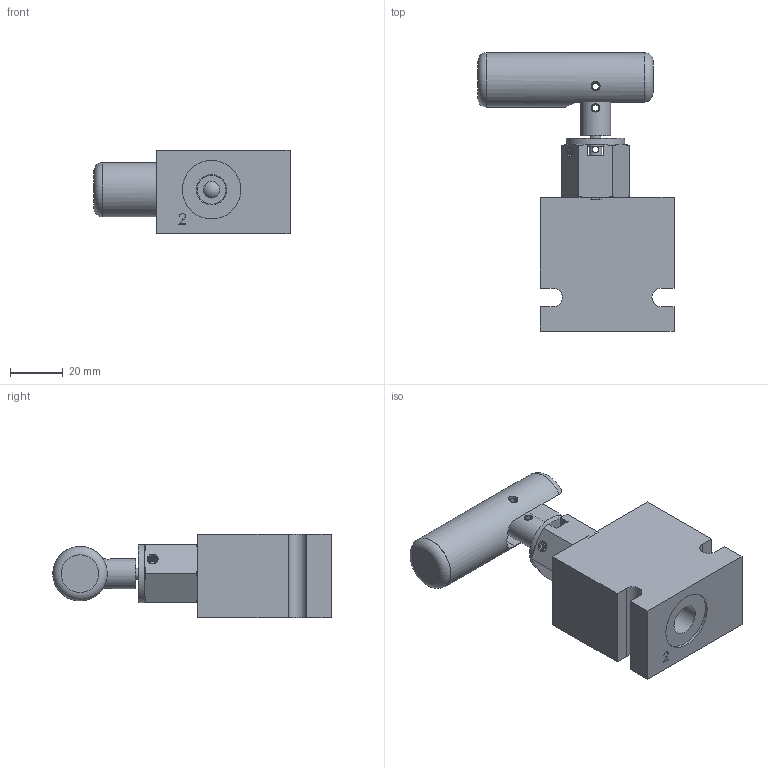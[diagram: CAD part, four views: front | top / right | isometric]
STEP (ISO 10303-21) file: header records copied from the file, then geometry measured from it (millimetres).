
FILE_DESCRIPTION( ( 'Unknown' ), '1' );
FILE_NAME( 'G:/Graphic Design/Graphic Design 2/Data Sheets/MANUAL_MECH OPERATED VALVES/4_STEP/2W2P Manual Valves/D-PBMCL00-A2.stp', 'Unknown', ( 'Unknown' ), ( 'Unknown' ), 'PSStep 16.0.42', 'Unknown', ' ' );
FILE_SCHEMA( ( 'AUTOMOTIVE_DESIGN { 1 0 10303 214 1 1 1 1 }' ) );
Length unit declared in the file: millimetre
Products named in the file (10): PBMCL00; PBMCL00-3D Full1; PBMCL00-3D Full2; PBMCL00-3D Full3; PBMCL00-3D Full4; PBMCL00-3D Full5; PBMCL00-3D Full6; PBMCL00-3D Full7; Assem1; B-DPBA2
Assembly tree (9 placements, depth 3):
  Assem1
    B-DPBA2
    PBMCL00
      PBMCL00-3D Full1
      PBMCL00-3D Full2
      PBMCL00-3D Full3
      PBMCL00-3D Full4
      PBMCL00-3D Full5
      PBMCL00-3D Full6
      PBMCL00-3D Full7
Bounding box: 74.45 x 105.73 x 31.75 mm (x, y, z)
Surface area: 28386.4 mm2 (no closed solid volume)
Topology: 0 solids, 215 shells, 215 faces, 933 edges, 851 vertices
Faces by surface type: plane 106, cylinder 52, cone 47, torus 7, sphere 2, bspline 1
Full cylindrical faces by diameter (mm): 0.2 x2, 2.426 x1, 3.175 x2, 3.454 x2, 4.064 x1, 4.775 x5, 6.248 x1, 6.35 x1, 6.731 x1, 9.258 x1, 9.373 x1, 9.528 x1, 9.842 x1, 9.928 x1, 10.16 x1, 10.5 x1, 11 x1, 11.43 x1, 11.5 x4, 12.62 x1, 12.624 x2, 12.7 x1, 15.824 x1, 16.751 x1, 17.33 x2, 20.65 x1, 22.098 x1, 22.22 x2, 22.225 x1
Entity records: 12515 total; most frequent: CARTESIAN_POINT 4173, DIRECTION 1322, VERTEX_POINT 824, ORIENTED_EDGE 822, EDGE_CURVE 822, AXIS2_PLACEMENT_3D 533, FACE_BOUND 337, EDGE_LOOP 335
